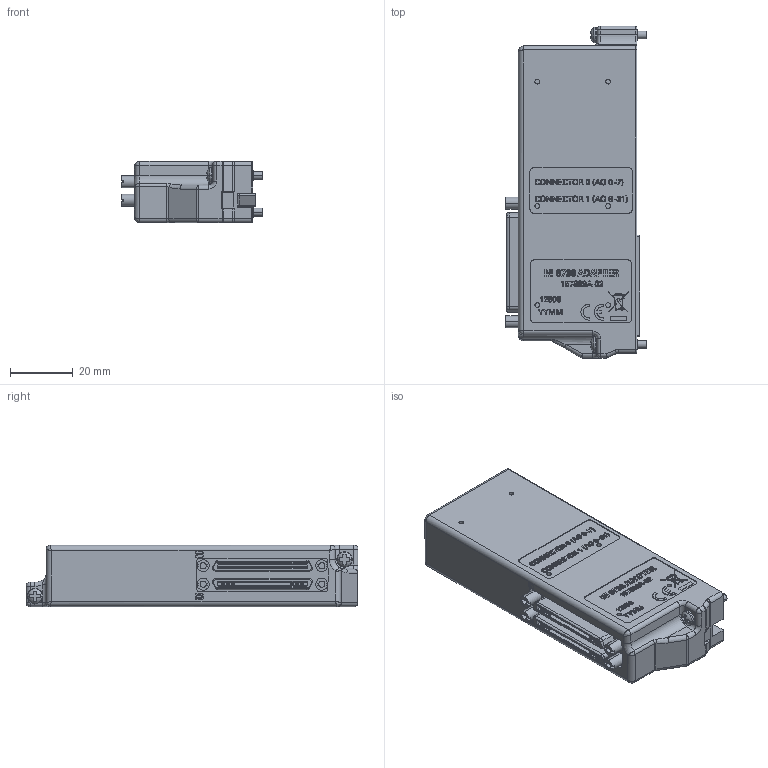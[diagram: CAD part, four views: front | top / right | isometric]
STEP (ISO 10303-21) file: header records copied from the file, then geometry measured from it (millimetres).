
FILE_DESCRIPTION((''),'2;1');
FILE_NAME('CU_PXIE-6738TB','2015-07-01T',('dkendric'),(''),'PRO/ENGINEER BY PARAMETRIC TECHNOLOGY CORPORATION, 2014000','PRO/ENGINEER BY PARAMETRIC TECHNOLOGY CORPORATION, 2014000','');
FILE_SCHEMA(('CONFIG_CONTROL_DESIGN'));
Products named in the file (1): CU_PXIE-6738TB
Bounding box: 44.94 x 105.48 x 19.52 mm (x, y, z)
Volume: 2507.1 mm3; surface area: 25210.6 mm2
Topology: 7 solids, 9 shells, 4307 faces, 11772 edges, 7689 vertices
Faces by surface type: plane 3054, cylinder 632, extrusion 542, torus 30, cone 20, sphere 19, bspline 10
Entity records: 139380 total; most frequent: CARTESIAN_POINT 30806, ORIENTED_EDGE 23438, DIRECTION 20070, EDGE_CURVE 11768, VECTOR 9774, LINE 9232, VERTEX_POINT 7687, AXIS2_PLACEMENT_3D 5148
